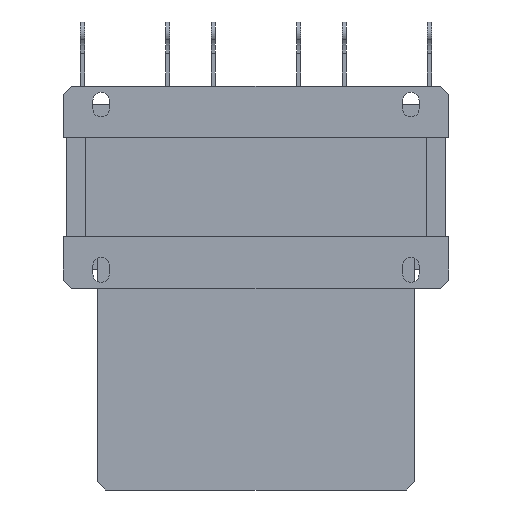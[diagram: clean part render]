
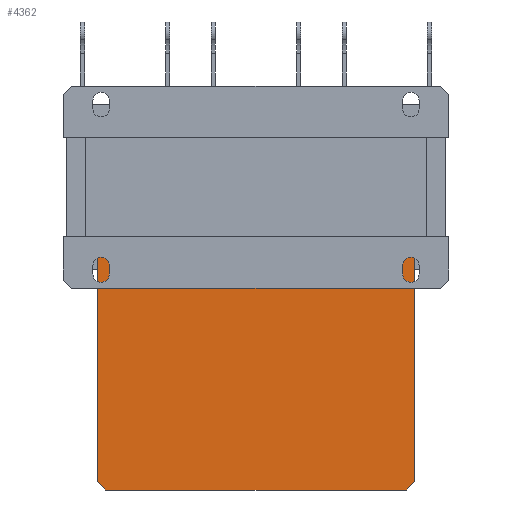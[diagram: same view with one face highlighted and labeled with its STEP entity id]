
A CAD part, front view. The second image highlights one B-rep face of the part: STEP entity #4362.
In plain terms, the highlighted planar face has unit normal (0, -1, 0).
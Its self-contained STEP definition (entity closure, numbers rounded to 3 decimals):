
#522=FACE_OUTER_BOUND('',#808,.T.);
#808=EDGE_LOOP('',(#3715,#3716,#3717,#3718,#3719,#3720));
#1205=LINE('',#7094,#1655);
#1211=LINE('',#7105,#1661);
#1217=LINE('',#7117,#1667);
#1221=LINE('',#7125,#1671);
#1222=LINE('',#7128,#1672);
#1226=LINE('',#7135,#1676);
#1655=VECTOR('',#5820,10.);
#1661=VECTOR('',#5828,10.);
#1667=VECTOR('',#5838,10.);
#1671=VECTOR('',#5844,10.);
#1672=VECTOR('',#5847,10.);
#1676=VECTOR('',#5853,10.);
#2075=VERTEX_POINT('',#7092);
#2076=VERTEX_POINT('',#7093);
#2080=VERTEX_POINT('',#7103);
#2084=VERTEX_POINT('',#7115);
#2087=VERTEX_POINT('',#7123);
#2088=VERTEX_POINT('',#7127);
#2623=EDGE_CURVE('',#2075,#2076,#1205,.T.);
#2629=EDGE_CURVE('',#2075,#2080,#1211,.T.);
#2635=EDGE_CURVE('',#2084,#2080,#1217,.T.);
#2639=EDGE_CURVE('',#2087,#2084,#1221,.T.);
#2640=EDGE_CURVE('',#2076,#2088,#1222,.T.);
#2644=EDGE_CURVE('',#2087,#2088,#1226,.T.);
#3715=ORIENTED_EDGE('',*,*,#2623,.F.);
#3716=ORIENTED_EDGE('',*,*,#2629,.T.);
#3717=ORIENTED_EDGE('',*,*,#2635,.F.);
#3718=ORIENTED_EDGE('',*,*,#2639,.F.);
#3719=ORIENTED_EDGE('',*,*,#2644,.T.);
#3720=ORIENTED_EDGE('',*,*,#2640,.F.);
#4126=PLANE('',#4787);
#4362=ADVANCED_FACE('',(#522),#4126,.T.);
#4787=AXIS2_PLACEMENT_3D('',#7140,#5860,#5861);
#5820=DIRECTION('',(-0.707,0.,0.707));
#5828=DIRECTION('',(1.,0.,0.));
#5838=DIRECTION('',(-0.707,0.,-0.707));
#5844=DIRECTION('',(0.,0.,-1.));
#5847=DIRECTION('',(0.,0.,1.));
#5853=DIRECTION('',(-1.,0.,0.));
#5860=DIRECTION('center_axis',(0.,-1.,0.));
#5861=DIRECTION('ref_axis',(0.,0.,-1.));
#7092=CARTESIAN_POINT('',(-109.,35.,-220.));
#7093=CARTESIAN_POINT('',(-115.,35.,-214.));
#7094=CARTESIAN_POINT('',(-127.625,35.,-201.375));
#7103=CARTESIAN_POINT('',(109.,35.,-220.));
#7105=CARTESIAN_POINT('',(0.,35.,-220.));
#7115=CARTESIAN_POINT('',(115.,35.,-214.));
#7117=CARTESIAN_POINT('',(127.625,35.,-201.375));
#7123=CARTESIAN_POINT('',(115.,35.,-42.5));
#7125=CARTESIAN_POINT('',(115.,35.,-42.5));
#7127=CARTESIAN_POINT('',(-115.,35.,-42.5));
#7128=CARTESIAN_POINT('',(-115.,35.,-42.5));
#7135=CARTESIAN_POINT('',(0.,35.,-42.5));
#7140=CARTESIAN_POINT('Origin',(0.,35.,-42.5));
